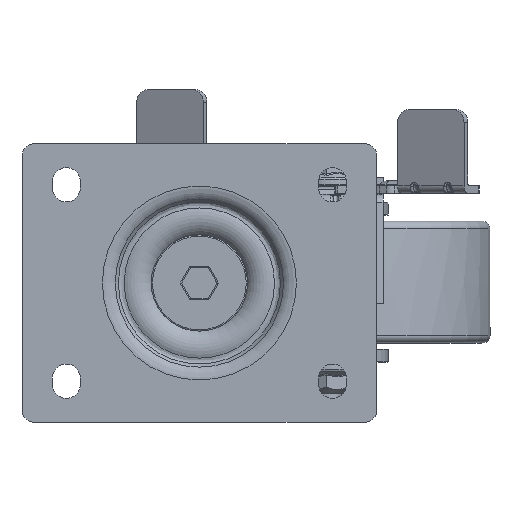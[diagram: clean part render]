
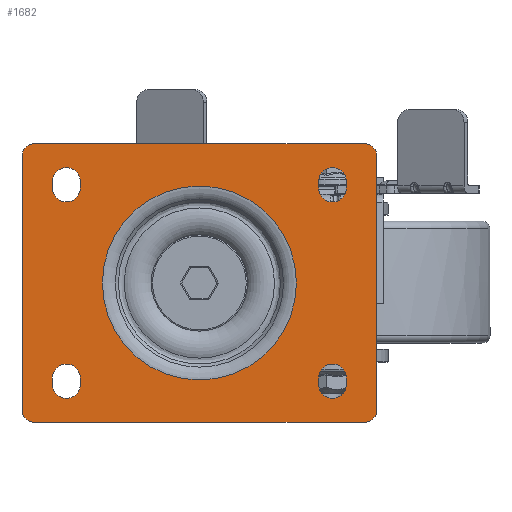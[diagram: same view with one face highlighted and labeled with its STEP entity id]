
A CAD part, top view. The second image highlights one B-rep face of the part: STEP entity #1682.
In plain terms, the highlighted planar face has unit normal (0, 0, 1).
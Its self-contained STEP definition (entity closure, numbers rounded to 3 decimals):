
#1452=CARTESIAN_POINT('',(-168.333,542.205,6.396));
#1453=DIRECTION('',(0.0,0.0,1.0));
#1454=DIRECTION('',(0.0,-1.0,0.0));
#1455=AXIS2_PLACEMENT_3D('',#1452,#1453,#1454);
#1456=PLANE('',#1455);
#1457=CARTESIAN_POINT('',(-66.085,597.205,6.396));
#1458=VERTEX_POINT('',#1457);
#1459=CARTESIAN_POINT('',(-196.085,597.205,6.396));
#1460=VERTEX_POINT('',#1459);
#1461=CARTESIAN_POINT('',(-66.085,597.205,6.396));
#1462=DIRECTION('',(-1.0,0.0,0.0));
#1463=VECTOR('',#1462,130.);
#1464=LINE('',#1461,#1463);
#1465=EDGE_CURVE('',#1458,#1460,#1464,.T.);
#1466=ORIENTED_EDGE('',*,*,#1465,.T.);
#1467=CARTESIAN_POINT('',(-201.085,592.205,6.396));
#1468=VERTEX_POINT('',#1467);
#1469=CARTESIAN_POINT('',(-196.085,592.205,6.396));
#1470=DIRECTION('',(0.0,0.0,1.0));
#1471=DIRECTION('',(1.0,0.0,0.0));
#1472=AXIS2_PLACEMENT_3D('',#1469,#1470,#1471);
#1473=CIRCLE('',#1472,5.0);
#1474=EDGE_CURVE('',#1460,#1468,#1473,.T.);
#1475=ORIENTED_EDGE('',*,*,#1474,.T.);
#1476=CARTESIAN_POINT('',(-201.085,492.205,6.396));
#1477=VERTEX_POINT('',#1476);
#1478=CARTESIAN_POINT('',(-201.085,592.205,6.396));
#1479=DIRECTION('',(0.0,-1.0,0.0));
#1480=VECTOR('',#1479,100.);
#1481=LINE('',#1478,#1480);
#1482=EDGE_CURVE('',#1468,#1477,#1481,.T.);
#1483=ORIENTED_EDGE('',*,*,#1482,.T.);
#1484=CARTESIAN_POINT('',(-196.085,487.205,6.396));
#1485=VERTEX_POINT('',#1484);
#1486=CARTESIAN_POINT('',(-196.085,492.205,6.396));
#1487=DIRECTION('',(0.0,0.0,1.0));
#1488=DIRECTION('',(1.0,0.0,0.0));
#1489=AXIS2_PLACEMENT_3D('',#1486,#1487,#1488);
#1490=CIRCLE('',#1489,5.0);
#1491=EDGE_CURVE('',#1477,#1485,#1490,.T.);
#1492=ORIENTED_EDGE('',*,*,#1491,.T.);
#1493=CARTESIAN_POINT('',(-66.085,487.205,6.396));
#1494=VERTEX_POINT('',#1493);
#1495=CARTESIAN_POINT('',(-196.085,487.205,6.396));
#1496=DIRECTION('',(1.0,0.0,0.0));
#1497=VECTOR('',#1496,130.);
#1498=LINE('',#1495,#1497);
#1499=EDGE_CURVE('',#1485,#1494,#1498,.T.);
#1500=ORIENTED_EDGE('',*,*,#1499,.T.);
#1501=CARTESIAN_POINT('',(-61.085,492.205,6.396));
#1502=VERTEX_POINT('',#1501);
#1503=CARTESIAN_POINT('',(-66.085,492.205,6.396));
#1504=DIRECTION('',(0.0,0.0,1.0));
#1505=DIRECTION('',(1.0,0.0,0.0));
#1506=AXIS2_PLACEMENT_3D('',#1503,#1504,#1505);
#1507=CIRCLE('',#1506,5.0);
#1508=EDGE_CURVE('',#1494,#1502,#1507,.T.);
#1509=ORIENTED_EDGE('',*,*,#1508,.T.);
#1510=CARTESIAN_POINT('',(-61.085,592.205,6.396));
#1511=VERTEX_POINT('',#1510);
#1512=CARTESIAN_POINT('',(-61.085,492.205,6.396));
#1513=DIRECTION('',(0.0,1.0,0.0));
#1514=VECTOR('',#1513,100.);
#1515=LINE('',#1512,#1514);
#1516=EDGE_CURVE('',#1502,#1511,#1515,.T.);
#1517=ORIENTED_EDGE('',*,*,#1516,.T.);
#1518=CARTESIAN_POINT('',(-66.085,592.205,6.396));
#1519=DIRECTION('',(0.0,0.0,1.0));
#1520=DIRECTION('',(1.0,0.0,0.0));
#1521=AXIS2_PLACEMENT_3D('',#1518,#1519,#1520);
#1522=CIRCLE('',#1521,5.0);
#1523=EDGE_CURVE('',#1511,#1458,#1522,.T.);
#1524=ORIENTED_EDGE('',*,*,#1523,.T.);
#1525=EDGE_LOOP('',(#1466,#1475,#1483,#1492,#1500,#1509,#1517,#1524));
#1526=FACE_OUTER_BOUND('',#1525,.T.);
#1527=CARTESIAN_POINT('',(-189.085,582.205,6.396));
#1528=VERTEX_POINT('',#1527);
#1529=CARTESIAN_POINT('',(-178.085,582.205,6.396));
#1530=VERTEX_POINT('',#1529);
#1531=CARTESIAN_POINT('',(-183.585,582.205,6.396));
#1532=DIRECTION('',(0.0,0.0,-1.0));
#1533=DIRECTION('',(1.0,0.0,0.0));
#1534=AXIS2_PLACEMENT_3D('',#1531,#1532,#1533);
#1535=CIRCLE('',#1534,5.5);
#1536=EDGE_CURVE('',#1528,#1530,#1535,.T.);
#1537=ORIENTED_EDGE('',*,*,#1536,.T.);
#1538=CARTESIAN_POINT('',(-178.085,579.705,6.396));
#1539=VERTEX_POINT('',#1538);
#1540=CARTESIAN_POINT('',(-178.085,582.205,6.396));
#1541=DIRECTION('',(0.0,-1.0,0.0));
#1542=VECTOR('',#1541,2.5);
#1543=LINE('',#1540,#1542);
#1544=EDGE_CURVE('',#1530,#1539,#1543,.T.);
#1545=ORIENTED_EDGE('',*,*,#1544,.T.);
#1546=CARTESIAN_POINT('',(-189.085,579.705,6.396));
#1547=VERTEX_POINT('',#1546);
#1548=CARTESIAN_POINT('',(-183.585,579.705,6.396));
#1549=DIRECTION('',(0.0,0.0,-1.0));
#1550=DIRECTION('',(1.0,0.0,0.0));
#1551=AXIS2_PLACEMENT_3D('',#1548,#1549,#1550);
#1552=CIRCLE('',#1551,5.5);
#1553=EDGE_CURVE('',#1539,#1547,#1552,.T.);
#1554=ORIENTED_EDGE('',*,*,#1553,.T.);
#1555=CARTESIAN_POINT('',(-189.085,579.705,6.396));
#1556=DIRECTION('',(0.0,1.0,0.0));
#1557=VECTOR('',#1556,2.5);
#1558=LINE('',#1555,#1557);
#1559=EDGE_CURVE('',#1547,#1528,#1558,.T.);
#1560=ORIENTED_EDGE('',*,*,#1559,.T.);
#1561=EDGE_LOOP('',(#1537,#1545,#1554,#1560));
#1562=FACE_BOUND('',#1561,.T.);
#1563=CARTESIAN_POINT('',(-73.085,579.705,6.396));
#1564=VERTEX_POINT('',#1563);
#1565=CARTESIAN_POINT('',(-84.085,579.705,6.396));
#1566=VERTEX_POINT('',#1565);
#1567=CARTESIAN_POINT('',(-78.585,579.705,6.396));
#1568=DIRECTION('',(0.0,0.0,-1.0));
#1569=DIRECTION('',(1.0,0.0,0.0));
#1570=AXIS2_PLACEMENT_3D('',#1567,#1568,#1569);
#1571=CIRCLE('',#1570,5.5);
#1572=EDGE_CURVE('',#1564,#1566,#1571,.T.);
#1573=ORIENTED_EDGE('',*,*,#1572,.T.);
#1574=CARTESIAN_POINT('',(-84.085,582.205,6.396));
#1575=VERTEX_POINT('',#1574);
#1576=CARTESIAN_POINT('',(-84.085,579.705,6.396));
#1577=DIRECTION('',(0.0,1.0,0.0));
#1578=VECTOR('',#1577,2.5);
#1579=LINE('',#1576,#1578);
#1580=EDGE_CURVE('',#1566,#1575,#1579,.T.);
#1581=ORIENTED_EDGE('',*,*,#1580,.T.);
#1582=CARTESIAN_POINT('',(-73.085,582.205,6.396));
#1583=VERTEX_POINT('',#1582);
#1584=CARTESIAN_POINT('',(-78.585,582.205,6.396));
#1585=DIRECTION('',(0.0,0.0,-1.0));
#1586=DIRECTION('',(1.0,0.0,0.0));
#1587=AXIS2_PLACEMENT_3D('',#1584,#1585,#1586);
#1588=CIRCLE('',#1587,5.5);
#1589=EDGE_CURVE('',#1575,#1583,#1588,.T.);
#1590=ORIENTED_EDGE('',*,*,#1589,.T.);
#1591=CARTESIAN_POINT('',(-73.085,582.205,6.396));
#1592=DIRECTION('',(0.0,-1.0,0.0));
#1593=VECTOR('',#1592,2.5);
#1594=LINE('',#1591,#1593);
#1595=EDGE_CURVE('',#1583,#1564,#1594,.T.);
#1596=ORIENTED_EDGE('',*,*,#1595,.T.);
#1597=EDGE_LOOP('',(#1573,#1581,#1590,#1596));
#1598=FACE_BOUND('',#1597,.T.);
#1599=CARTESIAN_POINT('',(-73.085,502.205,6.396));
#1600=VERTEX_POINT('',#1599);
#1601=CARTESIAN_POINT('',(-84.085,502.205,6.396));
#1602=VERTEX_POINT('',#1601);
#1603=CARTESIAN_POINT('',(-78.585,502.205,6.396));
#1604=DIRECTION('',(0.0,0.0,-1.0));
#1605=DIRECTION('',(1.0,0.0,0.0));
#1606=AXIS2_PLACEMENT_3D('',#1603,#1604,#1605);
#1607=CIRCLE('',#1606,5.5);
#1608=EDGE_CURVE('',#1600,#1602,#1607,.T.);
#1609=ORIENTED_EDGE('',*,*,#1608,.T.);
#1610=CARTESIAN_POINT('',(-84.085,504.705,6.396));
#1611=VERTEX_POINT('',#1610);
#1612=CARTESIAN_POINT('',(-84.085,502.205,6.396));
#1613=DIRECTION('',(0.0,1.0,0.0));
#1614=VECTOR('',#1613,2.5);
#1615=LINE('',#1612,#1614);
#1616=EDGE_CURVE('',#1602,#1611,#1615,.T.);
#1617=ORIENTED_EDGE('',*,*,#1616,.T.);
#1618=CARTESIAN_POINT('',(-73.085,504.705,6.396));
#1619=VERTEX_POINT('',#1618);
#1620=CARTESIAN_POINT('',(-78.585,504.705,6.396));
#1621=DIRECTION('',(0.0,0.0,-1.0));
#1622=DIRECTION('',(1.0,0.0,0.0));
#1623=AXIS2_PLACEMENT_3D('',#1620,#1621,#1622);
#1624=CIRCLE('',#1623,5.5);
#1625=EDGE_CURVE('',#1611,#1619,#1624,.T.);
#1626=ORIENTED_EDGE('',*,*,#1625,.T.);
#1627=CARTESIAN_POINT('',(-73.085,504.705,6.396));
#1628=DIRECTION('',(0.0,-1.0,0.0));
#1629=VECTOR('',#1628,2.5);
#1630=LINE('',#1627,#1629);
#1631=EDGE_CURVE('',#1619,#1600,#1630,.T.);
#1632=ORIENTED_EDGE('',*,*,#1631,.T.);
#1633=EDGE_LOOP('',(#1609,#1617,#1626,#1632));
#1634=FACE_BOUND('',#1633,.T.);
#1635=CARTESIAN_POINT('',(-189.085,504.705,6.396));
#1636=VERTEX_POINT('',#1635);
#1637=CARTESIAN_POINT('',(-178.085,504.705,6.396));
#1638=VERTEX_POINT('',#1637);
#1639=CARTESIAN_POINT('',(-183.585,504.705,6.396));
#1640=DIRECTION('',(0.0,0.0,-1.0));
#1641=DIRECTION('',(1.0,0.0,0.0));
#1642=AXIS2_PLACEMENT_3D('',#1639,#1640,#1641);
#1643=CIRCLE('',#1642,5.5);
#1644=EDGE_CURVE('',#1636,#1638,#1643,.T.);
#1645=ORIENTED_EDGE('',*,*,#1644,.T.);
#1646=CARTESIAN_POINT('',(-178.085,502.205,6.396));
#1647=VERTEX_POINT('',#1646);
#1648=CARTESIAN_POINT('',(-178.085,504.705,6.396));
#1649=DIRECTION('',(0.0,-1.0,0.0));
#1650=VECTOR('',#1649,2.5);
#1651=LINE('',#1648,#1650);
#1652=EDGE_CURVE('',#1638,#1647,#1651,.T.);
#1653=ORIENTED_EDGE('',*,*,#1652,.T.);
#1654=CARTESIAN_POINT('',(-189.085,502.205,6.396));
#1655=VERTEX_POINT('',#1654);
#1656=CARTESIAN_POINT('',(-183.585,502.205,6.396));
#1657=DIRECTION('',(0.0,0.0,-1.0));
#1658=DIRECTION('',(1.0,0.0,0.0));
#1659=AXIS2_PLACEMENT_3D('',#1656,#1657,#1658);
#1660=CIRCLE('',#1659,5.5);
#1661=EDGE_CURVE('',#1647,#1655,#1660,.T.);
#1662=ORIENTED_EDGE('',*,*,#1661,.T.);
#1663=CARTESIAN_POINT('',(-189.085,502.205,6.396));
#1664=DIRECTION('',(0.0,1.0,0.0));
#1665=VECTOR('',#1664,2.5);
#1666=LINE('',#1663,#1665);
#1667=EDGE_CURVE('',#1655,#1636,#1666,.T.);
#1668=ORIENTED_EDGE('',*,*,#1667,.T.);
#1669=EDGE_LOOP('',(#1645,#1653,#1662,#1668));
#1670=FACE_BOUND('',#1669,.T.);
#1671=CARTESIAN_POINT('',(-169.358,542.205,6.396));
#1672=VERTEX_POINT('',#1671);
#1673=CARTESIAN_POINT('',(-131.085,542.205,6.396));
#1674=DIRECTION('',(0.0,0.0,1.0));
#1675=DIRECTION('',(-1.0,0.0,0.0));
#1676=AXIS2_PLACEMENT_3D('',#1673,#1674,#1675);
#1677=CIRCLE('',#1676,38.273);
#1678=EDGE_CURVE('',#1672,#1672,#1677,.T.);
#1679=ORIENTED_EDGE('',*,*,#1678,.F.);
#1680=EDGE_LOOP('',(#1679));
#1681=FACE_BOUND('',#1680,.T.);
#1682=ADVANCED_FACE('',(#1526,#1562,#1598,#1634,#1670,#1681),#1456,.T.);
